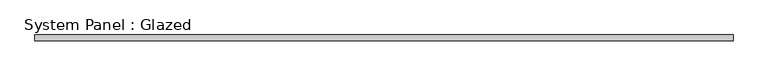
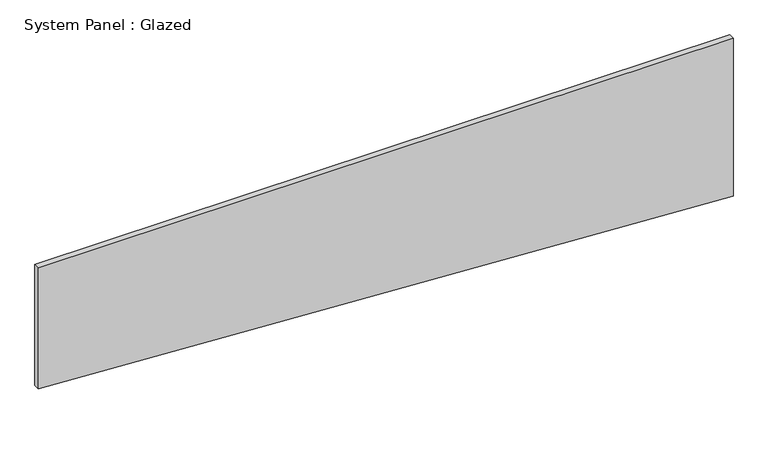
"""IFC4 building model written with IfcOpenShell, lengths in millimetres: plate geometry, System Panel : Glazed."""

from ifc_helpers import new_model, si_unit, frame, origin, place, context, project, spatial, polyline, outline, extrude, source, transform, mapped, element, save


def system_panel_glazed_a2e3b23e(model_context):
    return source(origin(), model_context, "Body", "SweptSolid", [
        extrude(outline(polyline([(171.6786082, -1504.95), (0.0, 1504.95), (724.6220912, 1504.95), (724.6220912, -1504.95), (171.6786082, -1504.95)])), frame((0.0, 19.05, 0.0), z_axis=(0.0, 1.0, 0.0), x_axis=(0.0, 0.0, 1.0)), (0.0, 0.0, 1.0), 25.4),
    ])


if __name__ == "__main__":
    model = new_model("IFC4")
    model_context = context("Model", 3, world=origin())
    ifc_project = project(units=[si_unit("LENGTHUNIT", "METRE", prefix="MILLI")], contexts=[model_context])
    site = spatial("IfcSite", under=ifc_project)
    building = spatial("IfcBuilding", under=site)
    placement = place(None, origin())
    system_panel_glazed_shape = system_panel_glazed_a2e3b23e(model_context)
    element("IfcPlate", 1, ObjectType="System Panel : Glazed", at=placement, inside=building, context=model_context, shape_type="MappedRepresentation", body=[
        mapped(system_panel_glazed_shape, transform((0.0, 0.0, 0.0), x_axis=(1.0, 0.0, 0.0), y_axis=(0.0, 1.0, 0.0), z_axis=(0.0, 0.0, 1.0))),
    ])
    save(model, "model.ifc")
